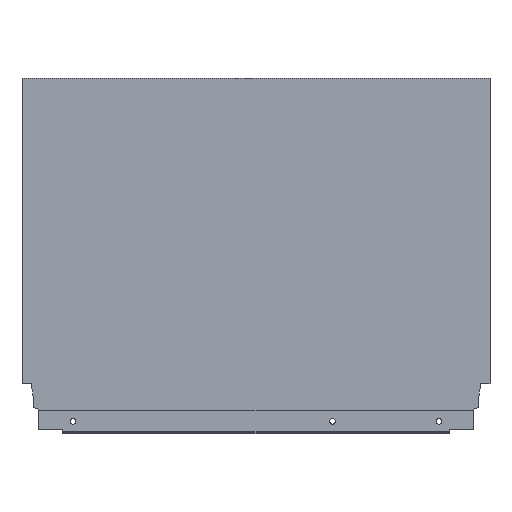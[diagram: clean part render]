
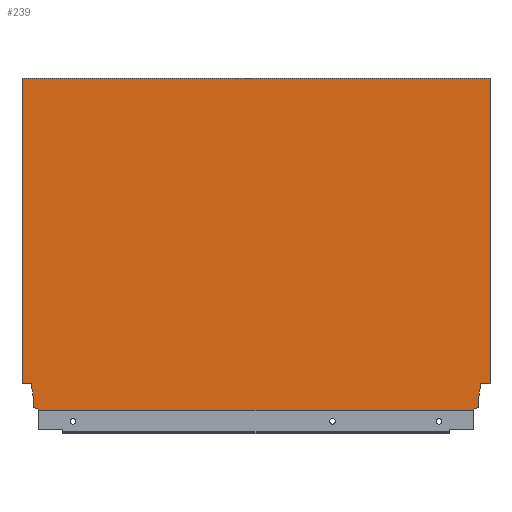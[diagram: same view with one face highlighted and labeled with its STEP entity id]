
A CAD part, top view. The second image highlights one B-rep face of the part: STEP entity #239.
In plain terms, the highlighted planar face has unit normal (0, 0, 1).
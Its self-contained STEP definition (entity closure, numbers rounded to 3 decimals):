
#37 = EDGE_CURVE ( 'NONE', #512, #492, #877, .T. ) ;
#60 = EDGE_CURVE ( 'NONE', #465, #486, #789, .T. ) ;
#81 = EDGE_CURVE ( 'NONE', #487, #461, #843, .T. ) ;
#82 = EDGE_CURVE ( 'NONE', #534, #519, #703, .T. ) ;
#90 = EDGE_CURVE ( 'NONE', #463, #457, #861, .T. ) ;
#98 = EDGE_CURVE ( 'NONE', #516, #487, #674, .T. ) ;
#101 = EDGE_CURVE ( 'NONE', #492, #538, #678, .T. ) ;
#112 = EDGE_CURVE ( 'NONE', #519, #465, #697, .T. ) ;
#128 = EDGE_CURVE ( 'NONE', #493, #512, #649, .T. ) ;
#139 = EDGE_CURVE ( 'NONE', #534, #538, #646, .T. ) ;
#168 = EDGE_CURVE ( 'NONE', #473, #493, #849, .T. ) ;
#171 = EDGE_CURVE ( 'NONE', #463, #473, #717, .T. ) ;
#180 = AXIS2_PLACEMENT_3D ( 'NONE', #1429, #1426, #1425 ) ;
#195 = EDGE_CURVE ( 'NONE', #486, #516, #779, .T. ) ;
#216 = EDGE_CURVE ( 'NONE', #461, #457, #774, .T. ) ;
#239 = ADVANCED_FACE ( 'NONE', ( #731 ), #1450, .T. ) ;
#279 = DIRECTION ( 'NONE',  ( -0.174, 0.985, 0. ) ) ;
#292 = CARTESIAN_POINT ( 'NONE',  ( -359.94, 21.2, 8. ) ) ;
#352 = CARTESIAN_POINT ( 'NONE',  ( -358.1, 10.765, 8. ) ) ;
#354 = DIRECTION ( 'NONE',  ( 0., 1., 0. ) ) ;
#367 = DIRECTION ( 'NONE',  ( 0., -1., 0. ) ) ;
#396 = CARTESIAN_POINT ( 'NONE',  ( -8.9, 10.765, 8. ) ) ;
#398 = DIRECTION ( 'NONE',  ( -1., 0., 0. ) ) ;
#410 = CARTESIAN_POINT ( 'NONE',  ( -8.9, 2.64, 8. ) ) ;
#457 = VERTEX_POINT ( 'NONE', #1391 ) ;
#461 = VERTEX_POINT ( 'NONE', #1351 ) ;
#463 = VERTEX_POINT ( 'NONE', #1349 ) ;
#465 = VERTEX_POINT ( 'NONE', #1358 ) ;
#473 = VERTEX_POINT ( 'NONE', #1361 ) ;
#486 = VERTEX_POINT ( 'NONE', #1323 ) ;
#487 = VERTEX_POINT ( 'NONE', #1310 ) ;
#492 = VERTEX_POINT ( 'NONE', #1339 ) ;
#493 = VERTEX_POINT ( 'NONE', #1338 ) ;
#512 = VERTEX_POINT ( 'NONE', #1283 ) ;
#516 = VERTEX_POINT ( 'NONE', #1289 ) ;
#519 = VERTEX_POINT ( 'NONE', #1286 ) ;
#524 = DIRECTION ( 'NONE',  ( 1., 0., 0. ) ) ;
#525 = CARTESIAN_POINT ( 'NONE',  ( -367., 0., 8. ) ) ;
#534 = VERTEX_POINT ( 'NONE', #1268 ) ;
#538 = VERTEX_POINT ( 'NONE', #1521 ) ;
#559 = CARTESIAN_POINT ( 'NONE',  ( 0., 0., 8. ) ) ;
#564 = DIRECTION ( 'NONE',  ( -0.94, -0.342, 0. ) ) ;
#566 = DIRECTION ( 'NONE',  ( 0., -1., 0. ) ) ;
#571 = CARTESIAN_POINT ( 'NONE',  ( -372., 21.2, 8. ) ) ;
#573 = DIRECTION ( 'NONE',  ( 1., 0., 0. ) ) ;
#574 = CARTESIAN_POINT ( 'NONE',  ( -367., 260.7, 8. ) ) ;
#593 = CARTESIAN_POINT ( 'NONE',  ( 0., 21.2, 8. ) ) ;
#595 = DIRECTION ( 'NONE',  ( -1., 0., 0. ) ) ;
#624 = VECTOR ( 'NONE', #595, 1000. ) ;
#625 = VECTOR ( 'NONE', #1325, 1000. ) ;
#638 = VECTOR ( 'NONE', #1303, 1000. ) ;
#645 = VECTOR ( 'NONE', #354, 1000. ) ;
#646 = LINE ( 'NONE', #1538, #638 ) ;
#649 = LINE ( 'NONE', #352, #645 ) ;
#674 = LINE ( 'NONE', #396, #675 ) ;
#675 = VECTOR ( 'NONE', #566, 1000. ) ;
#678 = LINE ( 'NONE', #571, #679 ) ;
#679 = VECTOR ( 'NONE', #398, 1000. ) ;
#697 = LINE ( 'NONE', #559, #698 ) ;
#698 = VECTOR ( 'NONE', #367, 1000. ) ;
#703 = LINE ( 'NONE', #574, #718 ) ;
#717 = LINE ( 'NONE', #1321, #625 ) ;
#718 = VECTOR ( 'NONE', #573, 1000. ) ;
#730 = VECTOR ( 'NONE', #564, 1000. ) ;
#731 = FACE_OUTER_BOUND ( 'NONE', #1011, .T. ) ;
#749 = VECTOR ( 'NONE', #1474, 1000. ) ;
#774 = LINE ( 'NONE', #1510, #749 ) ;
#778 = VECTOR ( 'NONE', #1484, 1000. ) ;
#779 = LINE ( 'NONE', #1483, #778 ) ;
#789 = LINE ( 'NONE', #593, #624 ) ;
#812 = VECTOR ( 'NONE', #1296, 1000. ) ;
#843 = LINE ( 'NONE', #410, #730 ) ;
#849 = LINE ( 'NONE', #1281, #812 ) ;
#860 = VECTOR ( 'NONE', #524, 1000. ) ;
#861 = LINE ( 'NONE', #525, #860 ) ;
#872 = VECTOR ( 'NONE', #279, 1000. ) ;
#877 = LINE ( 'NONE', #292, #872 ) ;
#992 = ORIENTED_EDGE ( 'NONE', *, *, #98, .F. ) ;
#1011 = EDGE_LOOP ( 'NONE', ( #1212, #1016, #1209, #1210, #1196, #1218, #1205, #1172, #1162, #992, #1171, #1208, #1204, #1237 ) ) ;
#1016 = ORIENTED_EDGE ( 'NONE', *, *, #101, .F. ) ;
#1162 = ORIENTED_EDGE ( 'NONE', *, *, #81, .F. ) ;
#1171 = ORIENTED_EDGE ( 'NONE', *, *, #195, .F. ) ;
#1172 = ORIENTED_EDGE ( 'NONE', *, *, #216, .F. ) ;
#1196 = ORIENTED_EDGE ( 'NONE', *, *, #168, .F. ) ;
#1204 = ORIENTED_EDGE ( 'NONE', *, *, #112, .F. ) ;
#1205 = ORIENTED_EDGE ( 'NONE', *, *, #90, .T. ) ;
#1208 = ORIENTED_EDGE ( 'NONE', *, *, #60, .F. ) ;
#1209 = ORIENTED_EDGE ( 'NONE', *, *, #37, .F. ) ;
#1210 = ORIENTED_EDGE ( 'NONE', *, *, #128, .F. ) ;
#1212 = ORIENTED_EDGE ( 'NONE', *, *, #139, .T. ) ;
#1218 = ORIENTED_EDGE ( 'NONE', *, *, #171, .F. ) ;
#1237 = ORIENTED_EDGE ( 'NONE', *, *, #82, .F. ) ;
#1268 = CARTESIAN_POINT ( 'NONE',  ( -367., 260.7, 8. ) ) ;
#1281 = CARTESIAN_POINT ( 'NONE',  ( -358.1, 2.64, 8. ) ) ;
#1283 = CARTESIAN_POINT ( 'NONE',  ( -358.1, 10.765, 8. ) ) ;
#1286 = CARTESIAN_POINT ( 'NONE',  ( 0., 260.7, 8. ) ) ;
#1289 = CARTESIAN_POINT ( 'NONE',  ( -8.9, 10.765, 8. ) ) ;
#1296 = DIRECTION ( 'NONE',  ( -0.94, 0.342, 0. ) ) ;
#1303 = DIRECTION ( 'NONE',  ( 0., -1., 0. ) ) ;
#1310 = CARTESIAN_POINT ( 'NONE',  ( -8.9, 2.64, 8. ) ) ;
#1321 = CARTESIAN_POINT ( 'NONE',  ( -353.996, 1.146, 8. ) ) ;
#1323 = CARTESIAN_POINT ( 'NONE',  ( -7.06, 21.2, 8. ) ) ;
#1325 = DIRECTION ( 'NONE',  ( 0., 1., 0. ) ) ;
#1338 = CARTESIAN_POINT ( 'NONE',  ( -358.1, 2.64, 8. ) ) ;
#1339 = CARTESIAN_POINT ( 'NONE',  ( -359.94, 21.2, 8. ) ) ;
#1349 = CARTESIAN_POINT ( 'NONE',  ( -353.996, 0., 8. ) ) ;
#1351 = CARTESIAN_POINT ( 'NONE',  ( -13.004, 1.146, 8. ) ) ;
#1358 = CARTESIAN_POINT ( 'NONE',  ( 0., 21.2, 8. ) ) ;
#1361 = CARTESIAN_POINT ( 'NONE',  ( -353.996, 1.146, 8. ) ) ;
#1391 = CARTESIAN_POINT ( 'NONE',  ( -13.004, 0., 8. ) ) ;
#1425 = DIRECTION ( 'NONE',  ( 1., 0., 0. ) ) ;
#1426 = DIRECTION ( 'NONE',  ( 0., 0., 1. ) ) ;
#1429 = CARTESIAN_POINT ( 'NONE',  ( -367., 0., 8. ) ) ;
#1450 = PLANE ( 'NONE',  #180 ) ;
#1474 = DIRECTION ( 'NONE',  ( 0., -1., 0. ) ) ;
#1483 = CARTESIAN_POINT ( 'NONE',  ( -7.06, 21.2, 8. ) ) ;
#1484 = DIRECTION ( 'NONE',  ( -0.174, -0.985, 0. ) ) ;
#1510 = CARTESIAN_POINT ( 'NONE',  ( -13.004, 1.146, 8. ) ) ;
#1521 = CARTESIAN_POINT ( 'NONE',  ( -367., 21.2, 8. ) ) ;
#1538 = CARTESIAN_POINT ( 'NONE',  ( -367., 0., 8. ) ) ;
